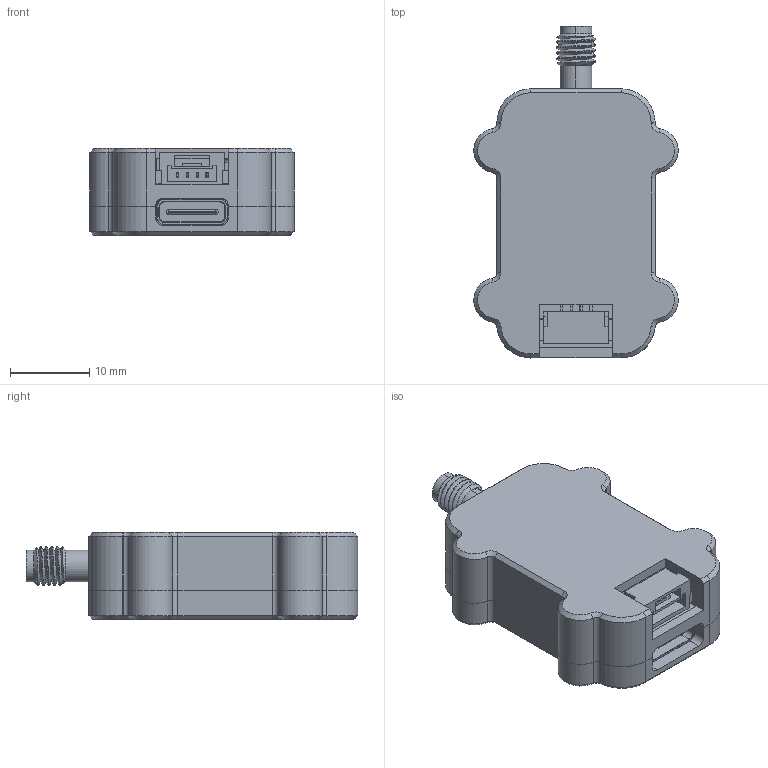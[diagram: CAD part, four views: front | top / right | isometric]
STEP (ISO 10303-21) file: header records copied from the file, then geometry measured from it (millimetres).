
FILE_DESCRIPTION (( 'STEP AP214' ), '1' );
FILE_NAME ('杅換耀倰.STEP', '2024-04-10T03:16:04', ( 'Windows 蚚誧' ), ( 'Microsoft' ), 'SwSTEP 2.0', 'SolidWorks 2019', '' );
FILE_SCHEMA (( 'AUTOMOTIVE_DESIGN' ));
Length unit declared in the file: millimetre
Products named in the file (3): SM04B-GHS-TB; all; 杅換耀倰
Assembly tree (2 placements, depth 2):
  杅換耀倰
    all
    SM04B-GHS-TB
Bounding box: 25.83 x 41.94 x 11 mm (x, y, z)
Volume: 4489.1 mm3; surface area: 8078.7 mm2
Topology: 87 solids, 87 shells, 3198 faces, 8092 edges, 5210 vertices
Faces by surface type: plane 2274, cylinder 555, bspline 178, torus 134, cone 55, sphere 2
Entity records: 110674 total; most frequent: CARTESIAN_POINT 23354, ORIENTED_EDGE 16184, DIRECTION 14855, EDGE_CURVE 8092, VECTOR 6437, LINE 6437, VERTEX_POINT 5210, AXIS2_PLACEMENT_3D 4209
